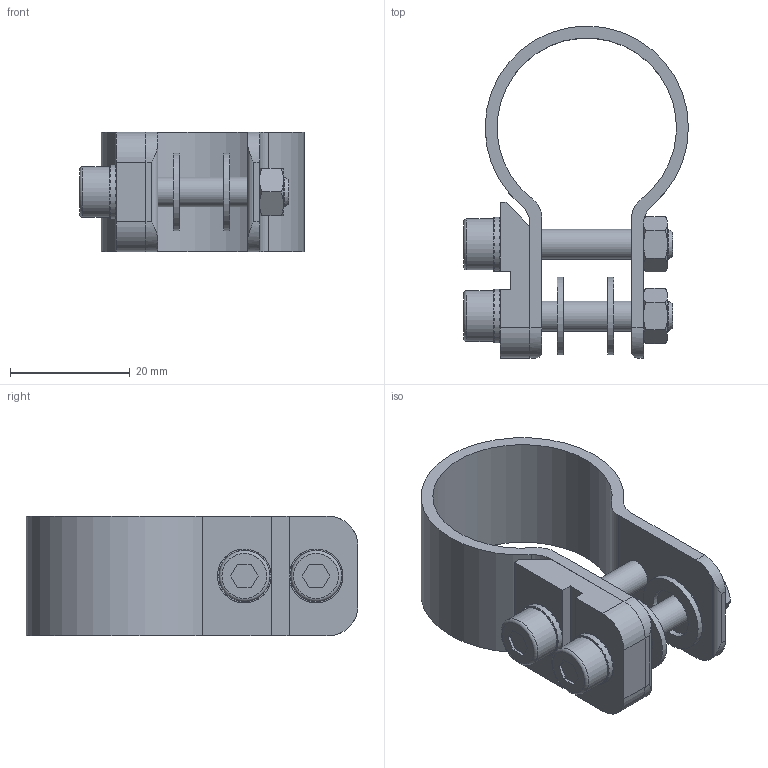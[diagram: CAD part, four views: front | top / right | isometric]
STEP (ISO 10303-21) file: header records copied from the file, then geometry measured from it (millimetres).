
FILE_DESCRIPTION(('STEP AP214'),'1');
FILE_NAME('CA.04.10.007.stp','2018-06-20T06:18:39',(' '),(' '),'Spatial InterOp 3D',' ',' ');
FILE_SCHEMA(('AUTOMOTIVE_DESIGN { 1 0 10303 214 1 1 1 1 }'));
Length unit declared in the file: millimetre
Products named in the file (8): 04.10.007.02; D.5; 04.10.004.03; 04.10.007.01; CA.04.10.007; R.8.SCH; V.TCE5x30; R.5.SCH
Assembly tree (11 placements, depth 3):
  CA.04.10.007
    04.10.007.02
      D.5  x2
      04.10.004.03
      04.10.007.01
    R.8.SCH  x2
    V.TCE5x30  x2
    R.5.SCH  x2
Bounding box: 37.6 x 55.5 x 20 mm (x, y, z)
Volume: 9351.5 mm3; surface area: 9946.7 mm2
Topology: 8 solids, 10 shells, 511 faces, 1445 edges, 952 vertices
Faces by surface type: plane 443, cylinder 34, cone 30, torus 4
Full cylindrical faces by diameter (mm): 4.2 x2, 5 x2, 5.2 x6, 5.3 x2, 8.3 x2, 8.5 x2, 9 x2, 13 x2
Entity records: 11284 total; most frequent: CARTESIAN_POINT 1659, DIRECTION 1553, ORIENTED_EDGE 1500, EDGE_CURVE 750, AXIS2_PLACEMENT_3D 543, VERTEX_POINT 505, LINE 467, VECTOR 467
